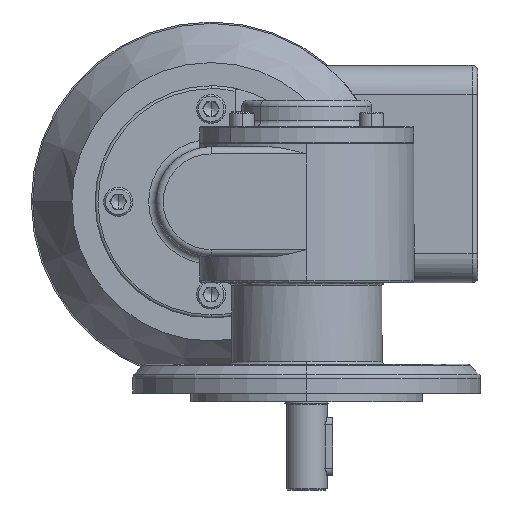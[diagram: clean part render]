
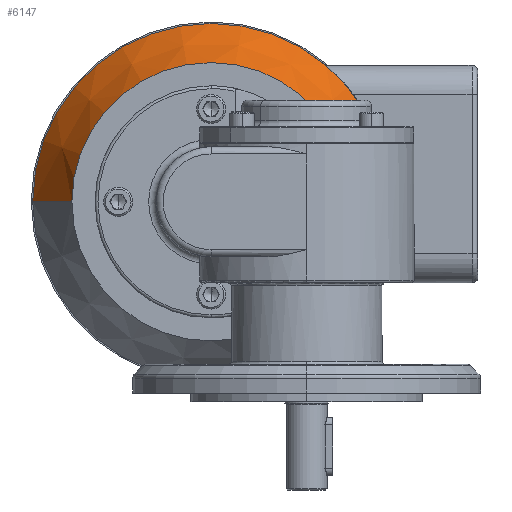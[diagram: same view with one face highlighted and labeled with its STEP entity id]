
A CAD part, left-side view. The second image highlights one B-rep face of the part: STEP entity #6147.
In plain terms, the highlighted conical face has half-angle 29.358 degrees and reference radius 48 mm.
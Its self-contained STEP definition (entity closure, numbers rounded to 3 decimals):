
#283 = DIRECTION ( 'NONE',  ( 1., 0., 0. ) ) ;
#868 = VECTOR ( 'NONE', #8578, 1000. ) ;
#1022 = FACE_OUTER_BOUND ( 'NONE', #3552, .T. ) ;
#1069 = LINE ( 'NONE', #11603, #868 ) ;
#1220 = CARTESIAN_POINT ( 'NONE',  ( -49.152, 90.407, 29.7 ) ) ;
#1526 = EDGE_CURVE ( 'NONE', #9559, #3651, #5618, .T. ) ;
#1707 = ORIENTED_EDGE ( 'NONE', *, *, #11883, .T. ) ;
#1935 = CARTESIAN_POINT ( 'NONE',  ( -49.152, -5.593, 29.7 ) ) ;
#2047 = CARTESIAN_POINT ( 'NONE',  ( -25.152, 42.407, 29.7 ) ) ;
#2477 = CIRCLE ( 'NONE', #4708, 48. ) ;
#2512 = AXIS2_PLACEMENT_3D ( 'NONE', #2047, #10565, #9644 ) ;
#3007 = DIRECTION ( 'NONE',  ( 1., 0., 0. ) ) ;
#3552 = EDGE_LOOP ( 'NONE', ( #1707, #8718, #8713, #8915 ) ) ;
#3651 = VERTEX_POINT ( 'NONE', #7191 ) ;
#3726 = DIRECTION ( 'NONE',  ( 0.872, -0.49, 0. ) ) ;
#3728 = CIRCLE ( 'NONE', #2512, 61.5 ) ;
#3866 = VECTOR ( 'NONE', #3726, 1000. ) ;
#4708 = AXIS2_PLACEMENT_3D ( 'NONE', #5036, #3007, #6992 ) ;
#4749 = CONICAL_SURFACE ( 'NONE', #6356, 48., 0.512 ) ;
#5036 = CARTESIAN_POINT ( 'NONE',  ( -49.152, 42.407, 29.7 ) ) ;
#5618 = LINE ( 'NONE', #1935, #3866 ) ;
#5695 = VERTEX_POINT ( 'NONE', #8677 ) ;
#5908 = DIRECTION ( 'NONE',  ( 0., 1., 0. ) ) ;
#5987 = EDGE_CURVE ( 'NONE', #5695, #3651, #3728, .T. ) ;
#6089 = CARTESIAN_POINT ( 'NONE',  ( -49.152, 42.407, 29.7 ) ) ;
#6147 = ADVANCED_FACE ( 'NONE', ( #1022 ), #4749, .T. ) ;
#6356 = AXIS2_PLACEMENT_3D ( 'NONE', #6089, #283, #5908 ) ;
#6992 = DIRECTION ( 'NONE',  ( 0., 1., 0. ) ) ;
#7191 = CARTESIAN_POINT ( 'NONE',  ( -25.152, -19.093, 29.7 ) ) ;
#8578 = DIRECTION ( 'NONE',  ( 0.872, 0.49, 0. ) ) ;
#8677 = CARTESIAN_POINT ( 'NONE',  ( -25.152, 103.907, 29.7 ) ) ;
#8713 = ORIENTED_EDGE ( 'NONE', *, *, #5987, .F. ) ;
#8718 = ORIENTED_EDGE ( 'NONE', *, *, #1526, .T. ) ;
#8915 = ORIENTED_EDGE ( 'NONE', *, *, #11136, .F. ) ;
#8972 = VERTEX_POINT ( 'NONE', #1220 ) ;
#9559 = VERTEX_POINT ( 'NONE', #11953 ) ;
#9644 = DIRECTION ( 'NONE',  ( 0., 1., 0. ) ) ;
#10565 = DIRECTION ( 'NONE',  ( 1., 0., 0. ) ) ;
#11136 = EDGE_CURVE ( 'NONE', #8972, #5695, #1069, .T. ) ;
#11603 = CARTESIAN_POINT ( 'NONE',  ( -49.152, 90.407, 29.7 ) ) ;
#11883 = EDGE_CURVE ( 'NONE', #8972, #9559, #2477, .T. ) ;
#11953 = CARTESIAN_POINT ( 'NONE',  ( -49.152, -5.593, 29.7 ) ) ;
